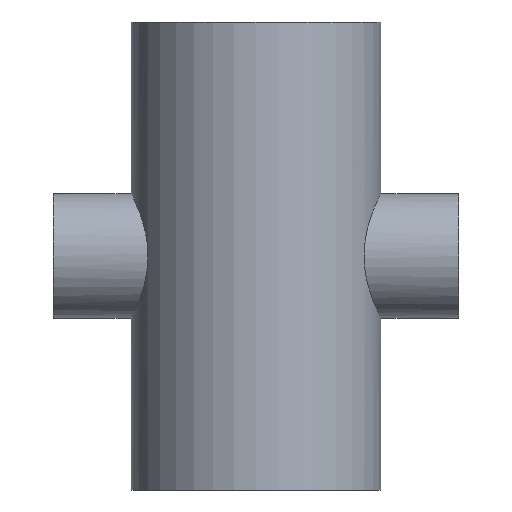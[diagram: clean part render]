
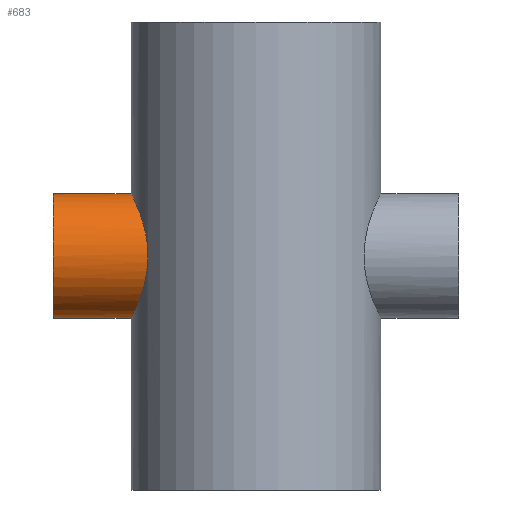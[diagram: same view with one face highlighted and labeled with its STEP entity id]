
A CAD part, front view. The second image highlights one B-rep face of the part: STEP entity #683.
In plain terms, the highlighted cylindrical face has radius 38.1 mm (diameter 76.2 mm), a partial arc.
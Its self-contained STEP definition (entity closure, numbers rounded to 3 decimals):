
#64 = FACE_OUTER_BOUND ( 'NONE', #192, .T. ) ;
#69 = ORIENTED_EDGE ( 'NONE', *, *, #194, .F. ) ;
#128 = ORIENTED_EDGE ( 'NONE', *, *, #1000, .F. ) ;
#142 = CARTESIAN_POINT ( 'NONE',  ( -76.071, -5.075, 37.844 ) ) ;
#148 = CARTESIAN_POINT ( 'NONE',  ( -76.2, -2.563, 38.1 ) ) ;
#171 = VECTOR ( 'NONE', #693, 1000. ) ;
#179 = EDGE_CURVE ( 'NONE', #333, #485, #258, .T. ) ;
#192 = EDGE_LOOP ( 'NONE', ( #128, #1059, #402, #69 ) ) ;
#194 = EDGE_CURVE ( 'NONE', #416, #485, #409, .T. ) ;
#199 = CARTESIAN_POINT ( 'NONE',  ( -76.2, 0., 38.1 ) ) ;
#204 = CARTESIAN_POINT ( 'NONE',  ( -73.881, -18.665, -33.221 ) ) ;
#207 = CARTESIAN_POINT ( 'NONE',  ( -75.704, -8.772, 37.098 ) ) ;
#211 = CARTESIAN_POINT ( 'NONE',  ( -75.552, -9.992, 36.788 ) ) ;
#216 = CARTESIAN_POINT ( 'NONE',  ( -75.283, -11.805, 36.231 ) ) ;
#222 = CARTESIAN_POINT ( 'NONE',  ( -75.186, -12.406, 36.029 ) ) ;
#229 = CARTESIAN_POINT ( 'NONE',  ( -74.981, -13.588, 35.6 ) ) ;
#236 = CARTESIAN_POINT ( 'NONE',  ( -74.873, -14.171, 35.372 ) ) ;
#258 = LINE ( 'NONE', #705, #171 ) ;
#274 = CARTESIAN_POINT ( 'NONE',  ( -74.306, -17.046, 34.165 ) ) ;
#277 = CARTESIAN_POINT ( 'NONE',  ( -73.767, -19.219, 32.99 ) ) ;
#279 = CARTESIAN_POINT ( 'NONE',  ( -73.021, -21.788, 31.261 ) ) ;
#282 = CARTESIAN_POINT ( 'NONE',  ( -72.867, -22.295, 30.902 ) ) ;
#284 = CARTESIAN_POINT ( 'NONE',  ( -72.556, -23.287, 30.161 ) ) ;
#285 = CARTESIAN_POINT ( 'NONE',  ( -72.399, -23.772, 29.78 ) ) ;
#287 = CARTESIAN_POINT ( 'NONE',  ( -71.922, -25.194, 28.608 ) ) ;
#291 = CARTESIAN_POINT ( 'NONE',  ( -71.597, -26.098, 27.785 ) ) ;
#294 = CARTESIAN_POINT ( 'NONE',  ( -70.945, -27.823, 26.057 ) ) ;
#301 = CARTESIAN_POINT ( 'NONE',  ( -76.2, 0., -38.1 ) ) ;
#305 = CARTESIAN_POINT ( 'NONE',  ( -70.616, -28.644, 25.152 ) ) ;
#311 = CARTESIAN_POINT ( 'NONE',  ( -70.127, -29.813, 23.731 ) ) ;
#333 = VERTEX_POINT ( 'NONE', #1039 ) ;
#337 = CARTESIAN_POINT ( 'NONE',  ( -76.2, 0., -38.1 ) ) ;
#351 = DIRECTION ( 'NONE',  ( 0., 0., -1. ) ) ;
#352 = LINE ( 'NONE', #553, #551 ) ;
#355 = DIRECTION ( 'NONE',  ( 1., 0., 0. ) ) ;
#358 = CARTESIAN_POINT ( 'NONE',  ( -69.964, -30.193, 23.246 ) ) ;
#362 = CARTESIAN_POINT ( 'NONE',  ( -69.641, -30.93, 22.256 ) ) ;
#367 = CARTESIAN_POINT ( 'NONE',  ( -69.481, -31.288, 21.75 ) ) ;
#369 = CARTESIAN_POINT ( 'NONE',  ( -68.697, -33.007, 19.19 ) ) ;
#373 = CARTESIAN_POINT ( 'NONE',  ( -68.117, -34.172, 17.029 ) ) ;
#374 = CARTESIAN_POINT ( 'NONE',  ( -67.371, -35.608, 13.609 ) ) ;
#380 = CARTESIAN_POINT ( 'NONE',  ( -67.143, -36.034, 12.439 ) ) ;
#391 = CARTESIAN_POINT ( 'NONE',  ( -66.84, -36.591, 10.635 ) ) ;
#396 = CARTESIAN_POINT ( 'NONE',  ( -66.745, -36.763, 10.023 ) ) ;
#402 = ORIENTED_EDGE ( 'NONE', *, *, #179, .T. ) ;
#403 = CARTESIAN_POINT ( 'NONE',  ( -66.572, -37.076, 8.798 ) ) ;
#409 = B_SPLINE_CURVE_WITH_KNOTS ( 'NONE', 3,
 ( #199, #148, #142, #207, #211, #216, #222, #229, #236, #274, #277, #279, #282, #284, #285, #287, #291, #294, #305, #311, #358, #362, #367, #369, #373, #374, #380, #391, #396, #403, #442, #445, #448, #452, #458, #474, #479, #527, #530, #536, #543, #550, #559, #566, #605, #608, #612, #621, #625, #627, #632, #636, #690, #695, #713, #720, #727, #792, #204, #794, #951, #1067, #1032, #930, #1028, #1024, #824, #645, #509, #301 ),
 .UNSPECIFIED., .F., .F.,
 ( 4, 2, 2, 2, 2, 2, 2, 2, 2, 2, 2, 2, 2, 2, 2, 2, 2, 2, 2, 2, 2, 2, 2, 2, 2, 2, 2, 2, 2, 2, 2, 2, 2, 2, 4 ),
 ( 0., 0.008, 0.011, 0.013, 0.015, 0.023, 0.025, 0.026, 0.03, 0.034, 0.036, 0.038, 0.045, 0.049, 0.051, 0.053, 0.061, 0.062, 0.064, 0.068, 0.072, 0.074, 0.076, 0.083, 0.085, 0.087, 0.091, 0.098, 0.1, 0.102, 0.106, 0.11, 0.112, 0.114, 0.121 ),
 .UNSPECIFIED. ) ;
#415 = DIRECTION ( 'NONE',  ( 0., 0., -1. ) ) ;
#416 = VERTEX_POINT ( 'NONE', #1042 ) ;
#417 = DIRECTION ( 'NONE',  ( 1., 0., 0. ) ) ;
#421 = EDGE_CURVE ( 'NONE', #1017, #333, #979, .T. ) ;
#423 = CARTESIAN_POINT ( 'NONE',  ( -123.825, 0., 0. ) ) ;
#442 = CARTESIAN_POINT ( 'NONE',  ( -66.494, -37.216, 8.184 ) ) ;
#444 = AXIS2_PLACEMENT_3D ( 'NONE', #1072, #355, #351 ) ;
#445 = CARTESIAN_POINT ( 'NONE',  ( -66.143, -37.841, 5.101 ) ) ;
#448 = CARTESIAN_POINT ( 'NONE',  ( -65.994, -38.095, 2.602 ) ) ;
#452 = CARTESIAN_POINT ( 'NONE',  ( -65.991, -38.101, -0.566 ) ) ;
#458 = CARTESIAN_POINT ( 'NONE',  ( -65.999, -38.086, -1.201 ) ) ;
#474 = CARTESIAN_POINT ( 'NONE',  ( -66.035, -38.025, -2.477 ) ) ;
#479 = CARTESIAN_POINT ( 'NONE',  ( -66.062, -37.978, -3.117 ) ) ;
#485 = VERTEX_POINT ( 'NONE', #337 ) ;
#509 = CARTESIAN_POINT ( 'NONE',  ( -76.2, -2.565, -38.1 ) ) ;
#527 = CARTESIAN_POINT ( 'NONE',  ( -66.17, -37.79, -5.018 ) ) ;
#530 = CARTESIAN_POINT ( 'NONE',  ( -66.277, -37.602, -6.267 ) ) ;
#536 = CARTESIAN_POINT ( 'NONE',  ( -66.555, -37.107, -8.732 ) ) ;
#543 = CARTESIAN_POINT ( 'NONE',  ( -66.726, -36.8, -9.947 ) ) ;
#550 = CARTESIAN_POINT ( 'NONE',  ( -67.026, -36.25, -11.746 ) ) ;
#551 = VECTOR ( 'NONE', #889, 1000. ) ;
#553 = CARTESIAN_POINT ( 'NONE',  ( -123.825, 0., 38.1 ) ) ;
#559 = CARTESIAN_POINT ( 'NONE',  ( -67.133, -36.051, -12.342 ) ) ;
#566 = CARTESIAN_POINT ( 'NONE',  ( -67.36, -35.624, -13.525 ) ) ;
#605 = CARTESIAN_POINT ( 'NONE',  ( -67.481, -35.396, -14.112 ) ) ;
#608 = CARTESIAN_POINT ( 'NONE',  ( -68.107, -34.191, -16.995 ) ) ;
#612 = CARTESIAN_POINT ( 'NONE',  ( -68.69, -33.021, -19.165 ) ) ;
#621 = CARTESIAN_POINT ( 'NONE',  ( -69.473, -31.307, -21.723 ) ) ;
#625 = CARTESIAN_POINT ( 'NONE',  ( -69.632, -30.951, -22.226 ) ) ;
#627 = CARTESIAN_POINT ( 'NONE',  ( -69.955, -30.214, -23.218 ) ) ;
#632 = CARTESIAN_POINT ( 'NONE',  ( -70.119, -29.833, -23.706 ) ) ;
#633 = CARTESIAN_POINT ( 'NONE',  ( -123.825, 0., 38.1 ) ) ;
#636 = CARTESIAN_POINT ( 'NONE',  ( -70.61, -28.66, -25.134 ) ) ;
#643 = CYLINDRICAL_SURFACE ( 'NONE', #444, 38.1 ) ;
#645 = CARTESIAN_POINT ( 'NONE',  ( -76.071, -5.093, -37.844 ) ) ;
#683 = ADVANCED_FACE ( 'NONE', ( #64 ), #643, .T. ) ;
#690 = CARTESIAN_POINT ( 'NONE',  ( -70.939, -27.838, -26.042 ) ) ;
#693 = DIRECTION ( 'NONE',  ( 1., 0., 0. ) ) ;
#695 = CARTESIAN_POINT ( 'NONE',  ( -71.919, -25.249, -28.636 ) ) ;
#705 = CARTESIAN_POINT ( 'NONE',  ( -123.825, 0., -38.1 ) ) ;
#713 = CARTESIAN_POINT ( 'NONE',  ( -72.562, -23.364, -30.198 ) ) ;
#720 = CARTESIAN_POINT ( 'NONE',  ( -73.311, -20.789, -31.935 ) ) ;
#727 = CARTESIAN_POINT ( 'NONE',  ( -73.458, -20.263, -32.271 ) ) ;
#792 = CARTESIAN_POINT ( 'NONE',  ( -73.743, -19.202, -32.913 ) ) ;
#794 = CARTESIAN_POINT ( 'NONE',  ( -74.28, -17.033, -34.103 ) ) ;
#824 = CARTESIAN_POINT ( 'NONE',  ( -75.759, -8.209, -37.211 ) ) ;
#889 = DIRECTION ( 'NONE',  ( 1., 0., 0. ) ) ;
#930 = CARTESIAN_POINT ( 'NONE',  ( -75.452, -10.666, -36.582 ) ) ;
#951 = CARTESIAN_POINT ( 'NONE',  ( -74.528, -15.918, -34.638 ) ) ;
#958 = AXIS2_PLACEMENT_3D ( 'NONE', #423, #417, #415 ) ;
#979 = CIRCLE ( 'NONE', #958, 38.1 ) ;
#1000 = EDGE_CURVE ( 'NONE', #1017, #416, #352, .T. ) ;
#1017 = VERTEX_POINT ( 'NONE', #633 ) ;
#1024 = CARTESIAN_POINT ( 'NONE',  ( -75.689, -8.832, -37.068 ) ) ;
#1028 = CARTESIAN_POINT ( 'NONE',  ( -75.536, -10.06, -36.753 ) ) ;
#1032 = CARTESIAN_POINT ( 'NONE',  ( -75.184, -12.464, -36.026 ) ) ;
#1039 = CARTESIAN_POINT ( 'NONE',  ( -123.825, 0., -38.1 ) ) ;
#1042 = CARTESIAN_POINT ( 'NONE',  ( -76.2, 0., 38.1 ) ) ;
#1059 = ORIENTED_EDGE ( 'NONE', *, *, #421, .T. ) ;
#1067 = CARTESIAN_POINT ( 'NONE',  ( -74.979, -13.633, -35.599 ) ) ;
#1072 = CARTESIAN_POINT ( 'NONE',  ( -123.825, 0., 0. ) ) ;
